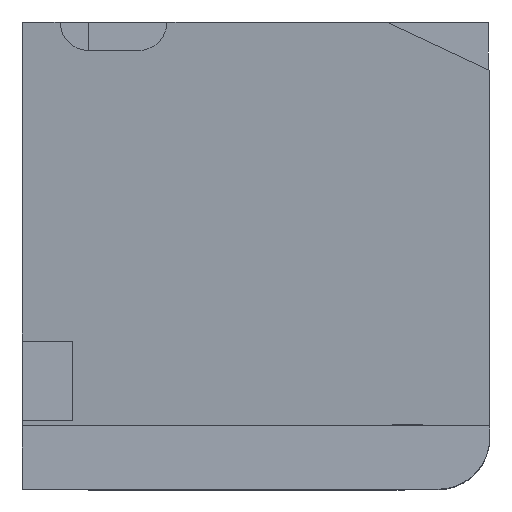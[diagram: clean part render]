
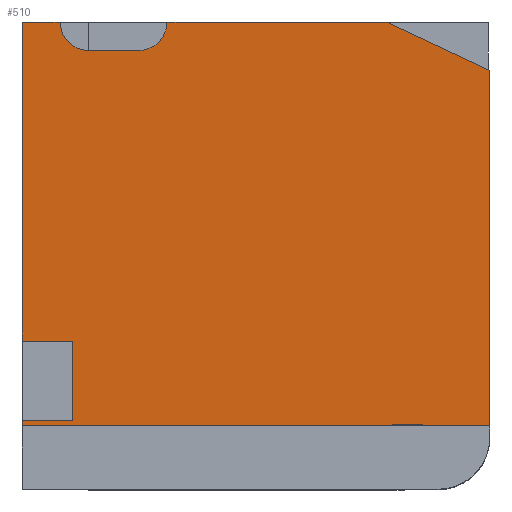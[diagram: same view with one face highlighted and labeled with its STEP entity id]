
A CAD part, top view. The second image highlights one B-rep face of the part: STEP entity #510.
In plain terms, the highlighted planar face has unit normal (-0.101, 0, 0.995).
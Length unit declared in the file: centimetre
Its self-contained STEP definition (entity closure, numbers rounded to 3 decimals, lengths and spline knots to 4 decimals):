
#11 = LINE ( 'NONE', #1339, #42 ) ;
#12 = CARTESIAN_POINT ( 'NONE',  ( 309.5824, 964.4451, 775.8967 ) ) ;
#19 = CARTESIAN_POINT ( 'NONE',  ( 1289.4577, 760.9993, 875.2534 ) ) ;
#31 = CARTESIAN_POINT ( 'NONE',  ( 248.8865, 939.3041, 769.7423 ) ) ;
#38 = CARTESIAN_POINT ( 'NONE',  ( 78.5049, 939.3041, 752.4661 ) ) ;
#42 = VECTOR ( 'NONE', #151, 100. ) ;
#49 = CARTESIAN_POINT ( 'NONE',  ( 248.8865, 939.3041, 769.7423 ) ) ;
#62 = ORIENTED_EDGE ( 'NONE', *, *, #974, .T. ) ;
#64 = ORIENTED_EDGE ( 'NONE', *, *, #450, .F. ) ;
#83 = DIRECTION ( 'NONE',  ( 0., -1., 0. ) ) ;
#84 = ORIENTED_EDGE ( 'NONE', *, *, #631, .T. ) ;
#104 = VERTEX_POINT ( 'NONE', #538 ) ;
#111 = CARTESIAN_POINT ( 'NONE',  ( 1000., 135.6785, 845.9032 ) ) ;
#124 = LINE ( 'NONE', #551, #1141 ) ;
#139 = VECTOR ( 'NONE', #1096, 100. ) ;
#140 = CARTESIAN_POINT ( 'NONE',  ( 80.9493, 1000., 752.7139 ) ) ;
#145 = CARTESIAN_POINT ( 'NONE',  ( 1000., 147.6693, 845.9032 ) ) ;
#151 = DIRECTION ( 'NONE',  ( -0.995, 0., -0.101 ) ) ;
#160 = VECTOR ( 'NONE', #985, 100. ) ;
#162 = VECTOR ( 'NONE', #1281, 100. ) ;
#165 = CARTESIAN_POINT ( 'NONE',  ( 80.9493, 1000., 752.7139 ) ) ;
#187 = LINE ( 'NONE', #1360, #562 ) ;
#194 = LINE ( 'NONE', #830, #468 ) ;
#199 = VERTEX_POINT ( 'NONE', #360 ) ;
#205 = EDGE_CURVE ( 'NONE', #1306, #385, #816, .T. ) ;
#208 = CARTESIAN_POINT ( 'NONE',  ( 1000., 1000., 845.9032 ) ) ;
#212 = LINE ( 'NONE', #208, #1003 ) ;
#217 = CARTESIAN_POINT ( 'NONE',  ( 841.8371, 135.6785, 829.8659 ) ) ;
#225 = ORIENTED_EDGE ( 'NONE', *, *, #205, .F. ) ;
#250 = DIRECTION ( 'NONE',  ( 0.995, 0., 0.101 ) ) ;
#268 = CARTESIAN_POINT ( 'NONE',  ( 141.6452, 939.3041, 758.8683 ) ) ;
#329 = VERTEX_POINT ( 'NONE', #516 ) ;
#332 = EDGE_CURVE ( 'NONE', #199, #736, #187, .T. ) ;
#350 = VECTOR ( 'NONE', #414, 100. ) ;
#355 = DIRECTION ( 'NONE',  ( 0.995, 0., 0.101 ) ) ;
#358 = CARTESIAN_POINT ( 'NONE',  ( 841.8371, 138.7827, 829.8659 ) ) ;
#360 = CARTESIAN_POINT ( 'NONE',  ( 805.1596, 138.7827, 826.1469 ) ) ;
#361 = LINE ( 'NONE', #1206, #956 ) ;
#367 = VERTEX_POINT ( 'NONE', #858 ) ;
#379 = VERTEX_POINT ( 'NONE', #217 ) ;
#385 = VERTEX_POINT ( 'NONE', #1122 ) ;
#387 = CARTESIAN_POINT ( 'NONE',  ( 841.8371, 138.7827, 829.8659 ) ) ;
#389 = VERTEX_POINT ( 'NONE', #881 ) ;
#396 = EDGE_CURVE ( 'NONE', #1205, #329, #1309, .T. ) ;
#414 = DIRECTION ( 'NONE',  ( 0., -1., 0. ) ) ;
#450 = EDGE_CURVE ( 'NONE', #367, #389, #124, .T. ) ;
#455 = CARTESIAN_POINT ( 'NONE',  ( 1000., 317.6152, 845.9032 ) ) ;
#456 = DIRECTION ( 'NONE',  ( 0., 1., 0. ) ) ;
#462 = VERTEX_POINT ( 'NONE', #806 ) ;
#465 = DIRECTION ( 'NONE',  ( -0.995, 0., -0.101 ) ) ;
#468 = VECTOR ( 'NONE', #1259, 100. ) ;
#469 = ORIENTED_EDGE ( 'NONE', *, *, #745, .T. ) ;
#478 = DIRECTION ( 'NONE',  ( 0., 1., 0. ) ) ;
#480 = EDGE_CURVE ( 'NONE', #379, #1040, #1133, .T. ) ;
#485 = FACE_OUTER_BOUND ( 'NONE', #797, .T. ) ;
#487 = VERTEX_POINT ( 'NONE', #49 ) ;
#500 = ORIENTED_EDGE ( 'NONE', *, *, #1343, .T. ) ;
#510 = ADVANCED_FACE ( 'NONE', ( #485 ), #1152, .F. ) ;
#516 = CARTESIAN_POINT ( 'NONE',  ( 778.3944, 1000., 823.433 ) ) ;
#534 = CARTESIAN_POINT ( 'NONE',  ( 107.4979, 317.6152, 755.4059 ) ) ;
#538 = CARTESIAN_POINT ( 'NONE',  ( 1000., 135.6785, 845.9032 ) ) ;
#544 = ORIENTED_EDGE ( 'NONE', *, *, #1097, .F. ) ;
#551 = CARTESIAN_POINT ( 'NONE',  ( 0., 135.6785, 744.5059 ) ) ;
#560 = LINE ( 'NONE', #1209, #1252 ) ;
#562 = VECTOR ( 'NONE', #83, 100. ) ;
#601 = ORIENTED_EDGE ( 'NONE', *, *, #1007, .T. ) ;
#615 = ORIENTED_EDGE ( 'NONE', *, *, #1325, .F. ) ;
#631 = EDGE_CURVE ( 'NONE', #897, #462, #1126, .T. ) ;
#632 = LINE ( 'NONE', #111, #1185 ) ;
#659 = LINE ( 'NONE', #38, #139 ) ;
#698 = LINE ( 'NONE', #1048, #350 ) ;
#736 = VERTEX_POINT ( 'NONE', #1081 ) ;
#739 = CARTESIAN_POINT ( 'NONE',  ( 309.5824, 1000., 775.8967 ) ) ;
#745 = EDGE_CURVE ( 'NONE', #329, #860, #212, .T. ) ;
#753 = EDGE_CURVE ( 'NONE', #736, #758, #632, .T. ) ;
#758 = VERTEX_POINT ( 'NONE', #1181 ) ;
#773 = DIRECTION ( 'NONE',  ( -0.995, 0., -0.101 ) ) ;
#785 = ORIENTED_EDGE ( 'NONE', *, *, #1217, .F. ) ;
#797 = EDGE_LOOP ( 'NONE', ( #64, #500, #990, #84, #544, #1093, #1375, #962, #1009, #615, #62, #848, #469, #785, #804, #225, #601 ) ) ;
#804 = ORIENTED_EDGE ( 'NONE', *, *, #1055, .F. ) ;
#806 = CARTESIAN_POINT ( 'NONE',  ( 0., 147.6693, 744.5059 ) ) ;
#810 = CARTESIAN_POINT ( 'NONE',  ( 106.0904, 939.3041, 755.2632 ) ) ;
#816 =( BOUNDED_CURVE ( )  B_SPLINE_CURVE ( 3, ( #165, #904, #810, #268 ),
 .UNSPECIFIED., .F., .F. ) 
 B_SPLINE_CURVE_WITH_KNOTS ( ( 4, 4 ),
 ( 3.1416, 4.7124 ),
 .UNSPECIFIED. ) 
 CURVE ( )  GEOMETRIC_REPRESENTATION_ITEM ( )  RATIONAL_B_SPLINE_CURVE ( ( 1., 0.805, 0.805, 1. ) ) 
 REPRESENTATION_ITEM ( '' )  );
#830 = CARTESIAN_POINT ( 'NONE',  ( 0., 135.6785, 744.5059 ) ) ;
#848 = ORIENTED_EDGE ( 'NONE', *, *, #396, .T. ) ;
#858 = CARTESIAN_POINT ( 'NONE',  ( 0., 317.6152, 744.5059 ) ) ;
#860 = VERTEX_POINT ( 'NONE', #739 ) ;
#878 = VECTOR ( 'NONE', #355, 100. ) ;
#881 = CARTESIAN_POINT ( 'NONE',  ( 0., 1000., 744.5059 ) ) ;
#889 = LINE ( 'NONE', #1319, #1054 ) ;
#897 = VERTEX_POINT ( 'NONE', #1037 ) ;
#904 = CARTESIAN_POINT ( 'NONE',  ( 80.9493, 964.4451, 752.7139 ) ) ;
#929 = DIRECTION ( 'NONE',  ( 0.101, 0., -0.995 ) ) ;
#956 = VECTOR ( 'NONE', #250, 100. ) ;
#962 = ORIENTED_EDGE ( 'NONE', *, *, #1342, .T. ) ;
#974 = EDGE_CURVE ( 'NONE', #104, #1205, #560, .T. ) ;
#975 = AXIS2_PLACEMENT_3D ( 'NONE', #1233, #929, #465 ) ;
#985 = DIRECTION ( 'NONE',  ( -0.902, 0.422, -0.091 ) ) ;
#990 = ORIENTED_EDGE ( 'NONE', *, *, #1067, .T. ) ;
#998 =( BOUNDED_CURVE ( )  B_SPLINE_CURVE ( 3, ( #31, #1230, #12, #1125 ),
 .UNSPECIFIED., .F., .F. ) 
 B_SPLINE_CURVE_WITH_KNOTS ( ( 4, 4 ),
 ( 4.7124, 6.2832 ),
 .UNSPECIFIED. ) 
 CURVE ( )  GEOMETRIC_REPRESENTATION_ITEM ( )  RATIONAL_B_SPLINE_CURVE ( ( 1., 0.805, 0.805, 1. ) ) 
 REPRESENTATION_ITEM ( '' )  );
#1003 = VECTOR ( 'NONE', #773, 100. ) ;
#1007 = EDGE_CURVE ( 'NONE', #1306, #389, #11, .T. ) ;
#1009 = ORIENTED_EDGE ( 'NONE', *, *, #480, .F. ) ;
#1037 = CARTESIAN_POINT ( 'NONE',  ( 107.4979, 147.6693, 755.4059 ) ) ;
#1040 = VERTEX_POINT ( 'NONE', #358 ) ;
#1048 = CARTESIAN_POINT ( 'NONE',  ( 107.4979, 135.6785, 755.4059 ) ) ;
#1054 = VECTOR ( 'NONE', #1337, 100. ) ;
#1055 = EDGE_CURVE ( 'NONE', #385, #487, #659, .T. ) ;
#1067 = EDGE_CURVE ( 'NONE', #1159, #897, #698, .T. ) ;
#1068 = DIRECTION ( 'NONE',  ( -0.995, 0., -0.101 ) ) ;
#1081 = CARTESIAN_POINT ( 'NONE',  ( 805.1596, 135.6785, 826.1469 ) ) ;
#1093 = ORIENTED_EDGE ( 'NONE', *, *, #753, .F. ) ;
#1096 = DIRECTION ( 'NONE',  ( 0.995, 0., 0.101 ) ) ;
#1097 = EDGE_CURVE ( 'NONE', #758, #462, #194, .T. ) ;
#1105 = LINE ( 'NONE', #455, #878 ) ;
#1108 = CARTESIAN_POINT ( 'NONE',  ( 1000., 896.3653, 845.9032 ) ) ;
#1122 = CARTESIAN_POINT ( 'NONE',  ( 141.6452, 939.3041, 758.8683 ) ) ;
#1125 = CARTESIAN_POINT ( 'NONE',  ( 309.5824, 1000., 775.8967 ) ) ;
#1126 = LINE ( 'NONE', #145, #162 ) ;
#1133 = LINE ( 'NONE', #387, #1349 ) ;
#1141 = VECTOR ( 'NONE', #456, 100. ) ;
#1152 = PLANE ( 'NONE',  #975 ) ;
#1159 = VERTEX_POINT ( 'NONE', #534 ) ;
#1181 = CARTESIAN_POINT ( 'NONE',  ( 0., 135.6785, 744.5059 ) ) ;
#1185 = VECTOR ( 'NONE', #1068, 100. ) ;
#1205 = VERTEX_POINT ( 'NONE', #1108 ) ;
#1206 = CARTESIAN_POINT ( 'NONE',  ( 823.4983, 138.7827, 828.0064 ) ) ;
#1209 = CARTESIAN_POINT ( 'NONE',  ( 1000., 135.6785, 845.9032 ) ) ;
#1217 = EDGE_CURVE ( 'NONE', #487, #860, #998, .T. ) ;
#1230 = CARTESIAN_POINT ( 'NONE',  ( 284.4413, 939.3041, 773.3475 ) ) ;
#1233 = CARTESIAN_POINT ( 'NONE',  ( 1000., 135.6785, 845.9032 ) ) ;
#1252 = VECTOR ( 'NONE', #1334, 100. ) ;
#1259 = DIRECTION ( 'NONE',  ( 0., 1., 0. ) ) ;
#1281 = DIRECTION ( 'NONE',  ( -0.995, 0., -0.101 ) ) ;
#1306 = VERTEX_POINT ( 'NONE', #140 ) ;
#1309 = LINE ( 'NONE', #19, #160 ) ;
#1319 = CARTESIAN_POINT ( 'NONE',  ( 1000., 135.6785, 845.9032 ) ) ;
#1325 = EDGE_CURVE ( 'NONE', #104, #379, #889, .T. ) ;
#1334 = DIRECTION ( 'NONE',  ( 0., 1., 0. ) ) ;
#1337 = DIRECTION ( 'NONE',  ( -0.995, 0., -0.101 ) ) ;
#1339 = CARTESIAN_POINT ( 'NONE',  ( 1000., 1000., 845.9032 ) ) ;
#1342 = EDGE_CURVE ( 'NONE', #199, #1040, #361, .T. ) ;
#1343 = EDGE_CURVE ( 'NONE', #367, #1159, #1105, .T. ) ;
#1349 = VECTOR ( 'NONE', #478, 100. ) ;
#1360 = CARTESIAN_POINT ( 'NONE',  ( 805.1596, 138.7827, 826.1469 ) ) ;
#1375 = ORIENTED_EDGE ( 'NONE', *, *, #332, .F. ) ;
